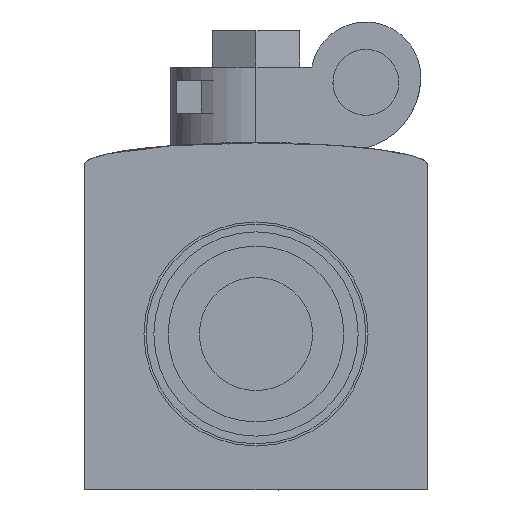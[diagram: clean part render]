
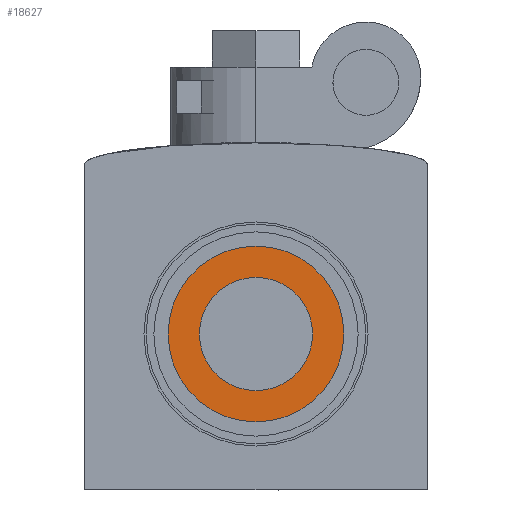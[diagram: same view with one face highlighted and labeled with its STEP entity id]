
A CAD part, front view. The second image highlights one B-rep face of the part: STEP entity #18627.
In plain terms, the highlighted planar face has unit normal (0, -1, 0).
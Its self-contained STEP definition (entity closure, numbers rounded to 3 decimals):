
#909 = EDGE_CURVE ( 'NONE', #7491, #17657, #5453, .T. ) ;
#1840 = DIRECTION ( 'NONE',  ( 0., -1., 0. ) ) ;
#1917 = VERTEX_POINT ( 'NONE', #5267 ) ;
#3923 = ORIENTED_EDGE ( 'NONE', *, *, #20947, .F. ) ;
#4645 = FACE_BOUND ( 'NONE', #12707, .T. ) ;
#4874 = DIRECTION ( 'NONE',  ( 0., -1., 0. ) ) ;
#4877 = FACE_OUTER_BOUND ( 'NONE', #7061, .T. ) ;
#5200 = DIRECTION ( 'NONE',  ( 0., 0., -1. ) ) ;
#5267 = CARTESIAN_POINT ( 'NONE',  ( 0., -23.5, 7.15 ) ) ;
#5453 = CIRCLE ( 'NONE', #21893, 8. ) ;
#6433 = DIRECTION ( 'NONE',  ( 0., 0., -1. ) ) ;
#7061 = EDGE_LOOP ( 'NONE', ( #20445, #10417 ) ) ;
#7491 = VERTEX_POINT ( 'NONE', #13044 ) ;
#8164 = ORIENTED_EDGE ( 'NONE', *, *, #23505, .F. ) ;
#8477 = CARTESIAN_POINT ( 'NONE',  ( 0., -23.5, 2. ) ) ;
#8603 = CARTESIAN_POINT ( 'NONE',  ( 0., -23.5, 2. ) ) ;
#9523 = CIRCLE ( 'NONE', #16382, 5.15 ) ;
#10034 = PLANE ( 'NONE',  #22913 ) ;
#10417 = ORIENTED_EDGE ( 'NONE', *, *, #909, .T. ) ;
#11944 = DIRECTION ( 'NONE',  ( 0., 0., -1. ) ) ;
#12157 = CARTESIAN_POINT ( 'NONE',  ( 0., -23.5, 2. ) ) ;
#12315 = DIRECTION ( 'NONE',  ( 0., -1., 0. ) ) ;
#12707 = EDGE_LOOP ( 'NONE', ( #3923, #8164 ) ) ;
#12837 = CARTESIAN_POINT ( 'NONE',  ( 0., -23.5, 2. ) ) ;
#13044 = CARTESIAN_POINT ( 'NONE',  ( 0., -23.5, 10. ) ) ;
#14120 = CIRCLE ( 'NONE', #20611, 8. ) ;
#14711 = CARTESIAN_POINT ( 'NONE',  ( 0., -23.5, -6. ) ) ;
#14897 = EDGE_CURVE ( 'NONE', #17657, #7491, #14120, .T. ) ;
#15780 = CARTESIAN_POINT ( 'NONE',  ( 0., -23.5, 2. ) ) ;
#16382 = AXIS2_PLACEMENT_3D ( 'NONE', #8603, #12315, #17701 ) ;
#16989 = DIRECTION ( 'NONE',  ( 0., 0., -1. ) ) ;
#17657 = VERTEX_POINT ( 'NONE', #14711 ) ;
#17701 = DIRECTION ( 'NONE',  ( 0., 0., -1. ) ) ;
#18117 = VERTEX_POINT ( 'NONE', #23363 ) ;
#18627 = ADVANCED_FACE ( 'NONE', ( #4645, #4877 ), #10034, .T. ) ;
#18800 = DIRECTION ( 'NONE',  ( 0., -1., 0. ) ) ;
#19475 = DIRECTION ( 'NONE',  ( 0., -1., 0. ) ) ;
#20445 = ORIENTED_EDGE ( 'NONE', *, *, #14897, .T. ) ;
#20604 = CIRCLE ( 'NONE', #22131, 5.15 ) ;
#20611 = AXIS2_PLACEMENT_3D ( 'NONE', #12837, #1840, #5200 ) ;
#20947 = EDGE_CURVE ( 'NONE', #18117, #1917, #9523, .T. ) ;
#21893 = AXIS2_PLACEMENT_3D ( 'NONE', #8477, #4874, #6433 ) ;
#22131 = AXIS2_PLACEMENT_3D ( 'NONE', #12157, #18800, #16989 ) ;
#22913 = AXIS2_PLACEMENT_3D ( 'NONE', #15780, #19475, #11944 ) ;
#23363 = CARTESIAN_POINT ( 'NONE',  ( 0., -23.5, -3.15 ) ) ;
#23505 = EDGE_CURVE ( 'NONE', #1917, #18117, #20604, .T. ) ;
